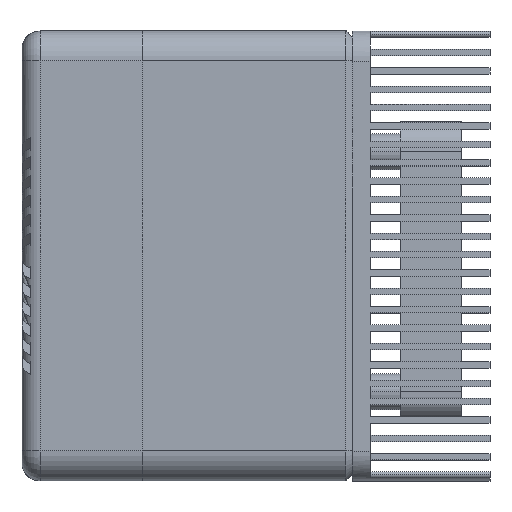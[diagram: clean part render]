
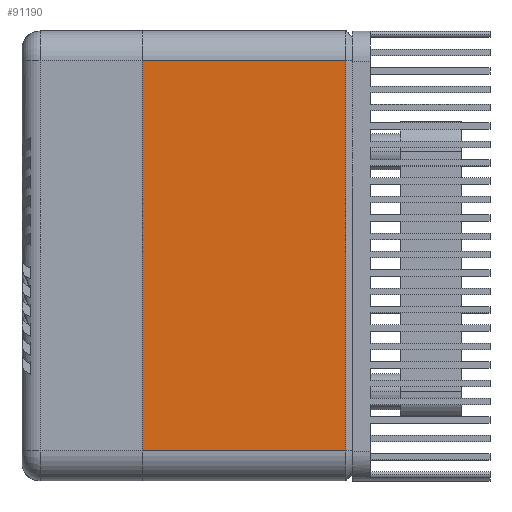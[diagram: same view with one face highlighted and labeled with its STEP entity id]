
A CAD part, left-side view. The second image highlights one B-rep face of the part: STEP entity #91190.
In plain terms, the highlighted planar face has unit normal (-1, 0, 0).
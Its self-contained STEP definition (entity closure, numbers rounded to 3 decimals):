
#1788 = DIRECTION ( 'NONE',  ( 0., 0., 1. ) ) ;
#7115 = CARTESIAN_POINT ( 'NONE',  ( -65., 35., -32.5 ) ) ;
#12947 = LINE ( 'NONE', #186362, #180740 ) ;
#14721 = DIRECTION ( 'NONE',  ( 1., 0., 0. ) ) ;
#19160 = VERTEX_POINT ( 'NONE', #59092 ) ;
#21599 = AXIS2_PLACEMENT_3D ( 'NONE', #73234, #14721, #88344 ) ;
#27371 = ORIENTED_EDGE ( 'NONE', *, *, #95416, .T. ) ;
#27875 = FACE_OUTER_BOUND ( 'NONE', #181371, .T. ) ;
#30104 = EDGE_CURVE ( 'NONE', #139795, #177973, #34441, .T. ) ;
#30683 = PLANE ( 'NONE',  #21599 ) ;
#34441 = LINE ( 'NONE', #7115, #177915 ) ;
#41445 = CARTESIAN_POINT ( 'NONE',  ( -65., 1., -32.5 ) ) ;
#53926 = EDGE_CURVE ( 'NONE', #19160, #119589, #12947, .T. ) ;
#59092 = CARTESIAN_POINT ( 'NONE',  ( -65., 35., 32.5 ) ) ;
#70498 = DIRECTION ( 'NONE',  ( 0., -1., 0. ) ) ;
#73234 = CARTESIAN_POINT ( 'NONE',  ( -65., 35., -32.5 ) ) ;
#88344 = DIRECTION ( 'NONE',  ( 0., 0., -1. ) ) ;
#90803 = EDGE_CURVE ( 'NONE', #139795, #19160, #103614, .T. ) ;
#91190 = ADVANCED_FACE ( 'NONE', ( #27875 ), #30683, .F. ) ;
#95416 = EDGE_CURVE ( 'NONE', #177973, #119589, #127355, .T. ) ;
#99045 = DIRECTION ( 'NONE',  ( 0., 0., 1. ) ) ;
#101736 = CARTESIAN_POINT ( 'NONE',  ( -65., 35., -32.5 ) ) ;
#103614 = LINE ( 'NONE', #101736, #108863 ) ;
#107145 = DIRECTION ( 'NONE',  ( 0., -1., 0. ) ) ;
#108863 = VECTOR ( 'NONE', #1788, 1000. ) ;
#119589 = VERTEX_POINT ( 'NONE', #130485 ) ;
#127355 = LINE ( 'NONE', #41445, #182808 ) ;
#130485 = CARTESIAN_POINT ( 'NONE',  ( -65., 1., 32.5 ) ) ;
#134762 = CARTESIAN_POINT ( 'NONE',  ( -65., 35., -32.5 ) ) ;
#139795 = VERTEX_POINT ( 'NONE', #134762 ) ;
#146500 = ORIENTED_EDGE ( 'NONE', *, *, #90803, .F. ) ;
#148947 = CARTESIAN_POINT ( 'NONE',  ( -65., 1., -32.5 ) ) ;
#159306 = ORIENTED_EDGE ( 'NONE', *, *, #30104, .T. ) ;
#171211 = ORIENTED_EDGE ( 'NONE', *, *, #53926, .F. ) ;
#177915 = VECTOR ( 'NONE', #107145, 1000. ) ;
#177973 = VERTEX_POINT ( 'NONE', #148947 ) ;
#180740 = VECTOR ( 'NONE', #70498, 1000. ) ;
#181371 = EDGE_LOOP ( 'NONE', ( #159306, #27371, #171211, #146500 ) ) ;
#182808 = VECTOR ( 'NONE', #99045, 1000. ) ;
#186362 = CARTESIAN_POINT ( 'NONE',  ( -65., 35., 32.5 ) ) ;
